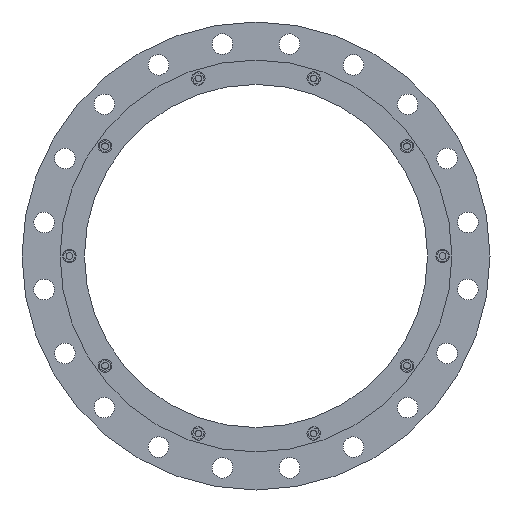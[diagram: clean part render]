
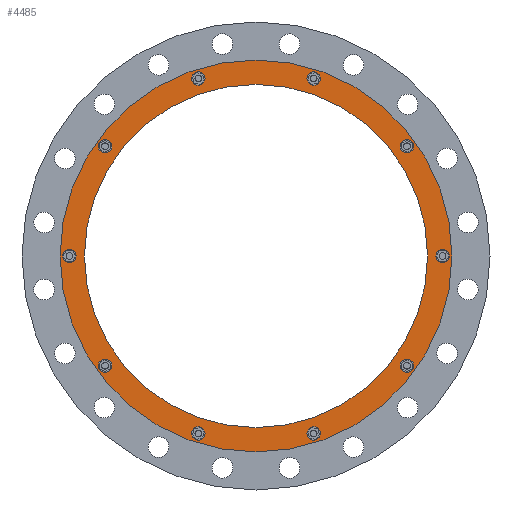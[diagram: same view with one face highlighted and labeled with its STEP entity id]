
A CAD part, front view. The second image highlights one B-rep face of the part: STEP entity #4485.
In plain terms, the highlighted planar face has unit normal (0, -1, 0).
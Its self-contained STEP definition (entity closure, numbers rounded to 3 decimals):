
#1108=CARTESIAN_POINT('',(0.,-94.452,0.));
#1109=DIRECTION('',(0.,-1.,0.));
#1110=DIRECTION('',(1.,0.,0.));
#1111=AXIS2_PLACEMENT_3D('',#1108,#1109,#1110);
#1113=CARTESIAN_POINT('',(0.,-94.452,0.));
#1114=DIRECTION('',(0.,1.,0.));
#1115=DIRECTION('',(1.,0.,0.));
#1116=AXIS2_PLACEMENT_3D('',#1113,#1114,#1115);
#1118=CARTESIAN_POINT('',(335.,-94.452,0.));
#1119=DIRECTION('',(0.,-1.,0.));
#1120=DIRECTION('',(0.,0.,-1.));
#1121=AXIS2_PLACEMENT_3D('',#1118,#1119,#1120);
#1123=CARTESIAN_POINT('',(335.,-94.452,0.));
#1124=DIRECTION('',(0.,-1.,0.));
#1125=DIRECTION('',(0.,0.,1.));
#1126=AXIS2_PLACEMENT_3D('',#1123,#1124,#1125);
#1128=CARTESIAN_POINT('',(271.021,-94.452,196.908));
#1129=DIRECTION('',(0.,-1.,0.));
#1130=DIRECTION('',(0.588,0.,-0.809));
#1131=AXIS2_PLACEMENT_3D('',#1128,#1129,#1130);
#1133=CARTESIAN_POINT('',(271.021,-94.452,196.908));
#1134=DIRECTION('',(0.,-1.,0.));
#1135=DIRECTION('',(-0.588,0.,0.809));
#1136=AXIS2_PLACEMENT_3D('',#1133,#1134,#1135);
#1138=CARTESIAN_POINT('',(103.521,-94.452,318.604));
#1139=DIRECTION('',(0.,-1.,0.));
#1140=DIRECTION('',(0.951,0.,-0.309));
#1141=AXIS2_PLACEMENT_3D('',#1138,#1139,#1140);
#1143=CARTESIAN_POINT('',(103.521,-94.452,318.604));
#1144=DIRECTION('',(0.,-1.,0.));
#1145=DIRECTION('',(-0.951,0.,0.309));
#1146=AXIS2_PLACEMENT_3D('',#1143,#1144,#1145);
#1148=CARTESIAN_POINT('',(-103.521,-94.452,318.604));
#1149=DIRECTION('',(0.,-1.,0.));
#1150=DIRECTION('',(0.951,0.,0.309));
#1151=AXIS2_PLACEMENT_3D('',#1148,#1149,#1150);
#1153=CARTESIAN_POINT('',(-103.521,-94.452,318.604));
#1154=DIRECTION('',(0.,-1.,0.));
#1155=DIRECTION('',(-0.951,0.,-0.309));
#1156=AXIS2_PLACEMENT_3D('',#1153,#1154,#1155);
#1158=CARTESIAN_POINT('',(-271.021,-94.452,196.908));
#1159=DIRECTION('',(0.,-1.,0.));
#1160=DIRECTION('',(0.588,0.,0.809));
#1161=AXIS2_PLACEMENT_3D('',#1158,#1159,#1160);
#1163=CARTESIAN_POINT('',(-271.021,-94.452,196.908));
#1164=DIRECTION('',(0.,-1.,0.));
#1165=DIRECTION('',(-0.588,0.,-0.809));
#1166=AXIS2_PLACEMENT_3D('',#1163,#1164,#1165);
#1168=CARTESIAN_POINT('',(-335.,-94.452,0.));
#1169=DIRECTION('',(0.,-1.,0.));
#1170=DIRECTION('',(0.,0.,1.));
#1171=AXIS2_PLACEMENT_3D('',#1168,#1169,#1170);
#1173=CARTESIAN_POINT('',(-335.,-94.452,0.));
#1174=DIRECTION('',(0.,-1.,0.));
#1175=DIRECTION('',(0.,0.,-1.));
#1176=AXIS2_PLACEMENT_3D('',#1173,#1174,#1175);
#1178=CARTESIAN_POINT('',(-271.021,-94.452,-196.908));
#1179=DIRECTION('',(0.,-1.,0.));
#1180=DIRECTION('',(-0.588,0.,0.809));
#1181=AXIS2_PLACEMENT_3D('',#1178,#1179,#1180);
#1183=CARTESIAN_POINT('',(-271.021,-94.452,-196.908));
#1184=DIRECTION('',(0.,-1.,0.));
#1185=DIRECTION('',(0.588,0.,-0.809));
#1186=AXIS2_PLACEMENT_3D('',#1183,#1184,#1185);
#1188=CARTESIAN_POINT('',(-103.521,-94.452,-318.604));
#1189=DIRECTION('',(0.,-1.,0.));
#1190=DIRECTION('',(-0.951,0.,0.309));
#1191=AXIS2_PLACEMENT_3D('',#1188,#1189,#1190);
#1193=CARTESIAN_POINT('',(-103.521,-94.452,-318.604));
#1194=DIRECTION('',(0.,-1.,0.));
#1195=DIRECTION('',(0.951,0.,-0.309));
#1196=AXIS2_PLACEMENT_3D('',#1193,#1194,#1195);
#1198=CARTESIAN_POINT('',(103.521,-94.452,-318.604));
#1199=DIRECTION('',(0.,-1.,0.));
#1200=DIRECTION('',(-0.951,0.,-0.309));
#1201=AXIS2_PLACEMENT_3D('',#1198,#1199,#1200);
#1203=CARTESIAN_POINT('',(103.521,-94.452,-318.604));
#1204=DIRECTION('',(0.,-1.,0.));
#1205=DIRECTION('',(0.951,0.,0.309));
#1206=AXIS2_PLACEMENT_3D('',#1203,#1204,#1205);
#1208=CARTESIAN_POINT('',(271.021,-94.452,-196.908));
#1209=DIRECTION('',(0.,-1.,0.));
#1210=DIRECTION('',(-0.588,0.,-0.809));
#1211=AXIS2_PLACEMENT_3D('',#1208,#1209,#1210);
#1213=CARTESIAN_POINT('',(271.021,-94.452,-196.908));
#1214=DIRECTION('',(0.,-1.,0.));
#1215=DIRECTION('',(0.588,0.,0.809));
#1216=AXIS2_PLACEMENT_3D('',#1213,#1214,#1215);
#1218=CARTESIAN_POINT('',(0.,-94.452,0.));
#1219=DIRECTION('',(0.,1.,0.));
#1220=DIRECTION('',(1.,0.,0.));
#1221=AXIS2_PLACEMENT_3D('',#1218,#1219,#1220);
#1231=CARTESIAN_POINT('',(0.,-94.452,0.));
#1232=DIRECTION('',(0.,-1.,0.));
#1233=DIRECTION('',(1.,0.,0.));
#1234=AXIS2_PLACEMENT_3D('',#1231,#1232,#1233);
#2983=CARTESIAN_POINT('',(351.6,-94.452,0.));
#2985=VERTEX_POINT('',#2983);
#2986=CARTESIAN_POINT('',(308.,-94.452,0.));
#2988=VERTEX_POINT('',#2986);
#2995=CARTESIAN_POINT('',(-351.6,-94.452,0.));
#2997=VERTEX_POINT('',#2995);
#2998=CARTESIAN_POINT('',(-308.,-94.452,0.));
#3000=VERTEX_POINT('',#2998);
#3037=CARTESIAN_POINT('',(335.,-94.452,-12.));
#3038=CARTESIAN_POINT('',(335.,-94.452,12.));
#3039=VERTEX_POINT('',#3037);
#3040=VERTEX_POINT('',#3038);
#3086=CARTESIAN_POINT('',(278.074,-94.452,187.2));
#3087=VERTEX_POINT('',#3086);
#3088=CARTESIAN_POINT('',(263.967,-94.452,206.616));
#3089=VERTEX_POINT('',#3088);
#3130=CARTESIAN_POINT('',(114.933,-94.452,314.896));
#3131=VERTEX_POINT('',#3130);
#3132=CARTESIAN_POINT('',(92.108,-94.452,322.312));
#3133=VERTEX_POINT('',#3132);
#3174=CARTESIAN_POINT('',(-92.108,-94.452,322.312));
#3175=VERTEX_POINT('',#3174);
#3176=CARTESIAN_POINT('',(-114.933,-94.452,314.896));
#3177=VERTEX_POINT('',#3176);
#3218=CARTESIAN_POINT('',(-263.967,-94.452,206.616));
#3219=VERTEX_POINT('',#3218);
#3220=CARTESIAN_POINT('',(-278.074,-94.452,187.2));
#3221=VERTEX_POINT('',#3220);
#3262=CARTESIAN_POINT('',(-335.,-94.452,12.));
#3263=VERTEX_POINT('',#3262);
#3264=CARTESIAN_POINT('',(-335.,-94.452,-12.));
#3265=VERTEX_POINT('',#3264);
#3306=CARTESIAN_POINT('',(-278.074,-94.452,-187.2));
#3307=VERTEX_POINT('',#3306);
#3308=CARTESIAN_POINT('',(-263.967,-94.452,-206.616));
#3309=VERTEX_POINT('',#3308);
#3350=CARTESIAN_POINT('',(-114.933,-94.452,-314.896));
#3351=VERTEX_POINT('',#3350);
#3352=CARTESIAN_POINT('',(-92.108,-94.452,-322.312));
#3353=VERTEX_POINT('',#3352);
#3565=CARTESIAN_POINT('',(92.108,-94.452,-322.312));
#3566=VERTEX_POINT('',#3565);
#3567=CARTESIAN_POINT('',(114.933,-94.452,-314.896));
#3568=VERTEX_POINT('',#3567);
#3609=CARTESIAN_POINT('',(263.967,-94.452,-206.616));
#3610=VERTEX_POINT('',#3609);
#3611=CARTESIAN_POINT('',(278.074,-94.452,-187.2));
#3612=VERTEX_POINT('',#3611);
#4410=CARTESIAN_POINT('',(0.,-94.452,0.));
#4411=DIRECTION('',(0.,1.,0.));
#4412=DIRECTION('',(-1.,0.,0.));
#4413=AXIS2_PLACEMENT_3D('',#4410,#4411,#4412);
#4414=PLANE('',#4413);
#4416=ORIENTED_EDGE('',*,*,#4415,.F.);
#4418=ORIENTED_EDGE('',*,*,#4417,.T.);
#4419=EDGE_LOOP('',(#4416,#4418));
#4420=FACE_OUTER_BOUND('',#4419,.F.);
#4422=ORIENTED_EDGE('',*,*,#4421,.F.);
#4424=ORIENTED_EDGE('',*,*,#4423,.T.);
#4425=EDGE_LOOP('',(#4422,#4424));
#4426=FACE_BOUND('',#4425,.F.);
#4428=ORIENTED_EDGE('',*,*,#4427,.T.);
#4430=ORIENTED_EDGE('',*,*,#4429,.T.);
#4431=EDGE_LOOP('',(#4428,#4430));
#4432=FACE_BOUND('',#4431,.F.);
#4434=ORIENTED_EDGE('',*,*,#4433,.T.);
#4436=ORIENTED_EDGE('',*,*,#4435,.T.);
#4437=EDGE_LOOP('',(#4434,#4436));
#4438=FACE_BOUND('',#4437,.F.);
#4440=ORIENTED_EDGE('',*,*,#4439,.T.);
#4442=ORIENTED_EDGE('',*,*,#4441,.T.);
#4443=EDGE_LOOP('',(#4440,#4442));
#4444=FACE_BOUND('',#4443,.F.);
#4446=ORIENTED_EDGE('',*,*,#4445,.T.);
#4448=ORIENTED_EDGE('',*,*,#4447,.T.);
#4449=EDGE_LOOP('',(#4446,#4448));
#4450=FACE_BOUND('',#4449,.F.);
#4452=ORIENTED_EDGE('',*,*,#4451,.T.);
#4454=ORIENTED_EDGE('',*,*,#4453,.T.);
#4455=EDGE_LOOP('',(#4452,#4454));
#4456=FACE_BOUND('',#4455,.F.);
#4458=ORIENTED_EDGE('',*,*,#4457,.T.);
#4460=ORIENTED_EDGE('',*,*,#4459,.T.);
#4461=EDGE_LOOP('',(#4458,#4460));
#4462=FACE_BOUND('',#4461,.F.);
#4464=ORIENTED_EDGE('',*,*,#4463,.T.);
#4466=ORIENTED_EDGE('',*,*,#4465,.T.);
#4467=EDGE_LOOP('',(#4464,#4466));
#4468=FACE_BOUND('',#4467,.F.);
#4470=ORIENTED_EDGE('',*,*,#4469,.T.);
#4472=ORIENTED_EDGE('',*,*,#4471,.T.);
#4473=EDGE_LOOP('',(#4470,#4472));
#4474=FACE_BOUND('',#4473,.F.);
#4475=ORIENTED_EDGE('',*,*,#4392,.T.);
#4476=ORIENTED_EDGE('',*,*,#4403,.T.);
#4477=EDGE_LOOP('',(#4475,#4476));
#4478=FACE_BOUND('',#4477,.F.);
#4480=ORIENTED_EDGE('',*,*,#4479,.T.);
#4482=ORIENTED_EDGE('',*,*,#4481,.T.);
#4483=EDGE_LOOP('',(#4480,#4482));
#4484=FACE_BOUND('',#4483,.F.);
#4485=ADVANCED_FACE('',(#4420,#4426,#4432,#4438,#4444,#4450,#4456,#4462,#4468,
#4474,#4478,#4484),#4414,.F.);
#1112=CIRCLE('',#1111,351.6);
#1117=CIRCLE('',#1116,351.6);
#1122=CIRCLE('',#1121,12.);
#1127=CIRCLE('',#1126,12.);
#1132=CIRCLE('',#1131,12.);
#1137=CIRCLE('',#1136,12.);
#1142=CIRCLE('',#1141,12.);
#1147=CIRCLE('',#1146,12.);
#1152=CIRCLE('',#1151,12.);
#1157=CIRCLE('',#1156,12.);
#1162=CIRCLE('',#1161,12.);
#1167=CIRCLE('',#1166,12.);
#1172=CIRCLE('',#1171,12.);
#1177=CIRCLE('',#1176,12.);
#1182=CIRCLE('',#1181,12.);
#1187=CIRCLE('',#1186,12.);
#1192=CIRCLE('',#1191,12.);
#1197=CIRCLE('',#1196,12.);
#1202=CIRCLE('',#1201,12.);
#1207=CIRCLE('',#1206,12.);
#1212=CIRCLE('',#1211,12.);
#1217=CIRCLE('',#1216,12.);
#1222=CIRCLE('',#1221,308.);
#1235=CIRCLE('',#1234,308.);
#4392=EDGE_CURVE('',#3566,#3568,#1202,.T.);
#4403=EDGE_CURVE('',#3568,#3566,#1207,.T.);
#4415=EDGE_CURVE('',#2985,#2997,#1112,.T.);
#4417=EDGE_CURVE('',#2985,#2997,#1117,.T.);
#4421=EDGE_CURVE('',#2988,#3000,#1222,.T.);
#4423=EDGE_CURVE('',#2988,#3000,#1235,.T.);
#4427=EDGE_CURVE('',#3039,#3040,#1122,.T.);
#4429=EDGE_CURVE('',#3040,#3039,#1127,.T.);
#4433=EDGE_CURVE('',#3087,#3089,#1132,.T.);
#4435=EDGE_CURVE('',#3089,#3087,#1137,.T.);
#4439=EDGE_CURVE('',#3131,#3133,#1142,.T.);
#4441=EDGE_CURVE('',#3133,#3131,#1147,.T.);
#4445=EDGE_CURVE('',#3175,#3177,#1152,.T.);
#4447=EDGE_CURVE('',#3177,#3175,#1157,.T.);
#4451=EDGE_CURVE('',#3219,#3221,#1162,.T.);
#4453=EDGE_CURVE('',#3221,#3219,#1167,.T.);
#4457=EDGE_CURVE('',#3263,#3265,#1172,.T.);
#4459=EDGE_CURVE('',#3265,#3263,#1177,.T.);
#4463=EDGE_CURVE('',#3307,#3309,#1182,.T.);
#4465=EDGE_CURVE('',#3309,#3307,#1187,.T.);
#4469=EDGE_CURVE('',#3351,#3353,#1192,.T.);
#4471=EDGE_CURVE('',#3353,#3351,#1197,.T.);
#4479=EDGE_CURVE('',#3610,#3612,#1212,.T.);
#4481=EDGE_CURVE('',#3612,#3610,#1217,.T.);
